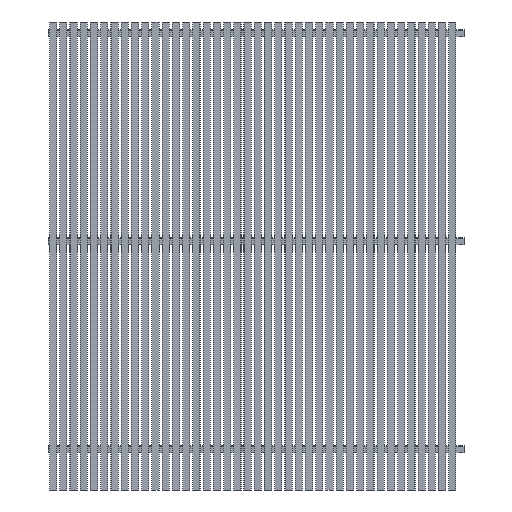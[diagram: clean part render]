
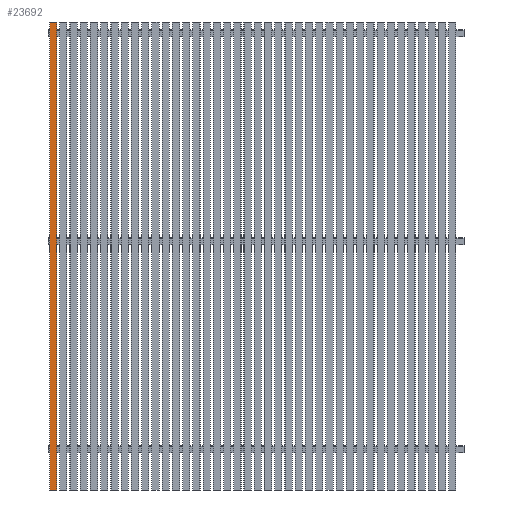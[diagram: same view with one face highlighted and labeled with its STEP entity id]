
A CAD part, front view. The second image highlights one B-rep face of the part: STEP entity #23692.
In plain terms, the highlighted planar face has unit normal (0, -1, 0).
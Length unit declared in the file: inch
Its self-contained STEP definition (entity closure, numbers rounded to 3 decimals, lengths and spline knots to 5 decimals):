
#525=PLANE('',#24916);
#1524=FACE_OUTER_BOUND('',#2686,.T.);
#2686=EDGE_LOOP('',(#16617,#16618,#16619,#16620));
#4192=LINE('',#32739,#7334);
#4193=LINE('',#32742,#7335);
#4194=LINE('',#32744,#7336);
#4195=LINE('',#32745,#7337);
#7334=VECTOR('',#26510,0.3937);
#7335=VECTOR('',#26513,0.3937);
#7336=VECTOR('',#26514,0.3937);
#7337=VECTOR('',#26515,0.3937);
#10801=VERTEX_POINT('',#32735);
#10802=VERTEX_POINT('',#32737);
#10803=VERTEX_POINT('',#32741);
#10804=VERTEX_POINT('',#32743);
#13130=EDGE_CURVE('',#10801,#10802,#4192,.T.);
#13131=EDGE_CURVE('',#10803,#10801,#4193,.T.);
#13132=EDGE_CURVE('',#10804,#10802,#4194,.T.);
#13133=EDGE_CURVE('',#10803,#10804,#4195,.T.);
#16617=ORIENTED_EDGE('',*,*,#13131,.T.);
#16618=ORIENTED_EDGE('',*,*,#13130,.T.);
#16619=ORIENTED_EDGE('',*,*,#13132,.F.);
#16620=ORIENTED_EDGE('',*,*,#13133,.F.);
#23692=ADVANCED_FACE('',(#1524),#525,.T.);
#24916=AXIS2_PLACEMENT_3D('',#32740,#26511,#26512);
#26510=DIRECTION('',(0.,0.,1.));
#26511=DIRECTION('center_axis',(0.,-1.,0.));
#26512=DIRECTION('ref_axis',(1.,0.,0.));
#26513=DIRECTION('',(1.,0.,0.));
#26514=DIRECTION('',(1.,0.,0.));
#26515=DIRECTION('',(0.,0.,1.));
#32735=CARTESIAN_POINT('',(1.65762,-0.00164,0.));
#32737=CARTESIAN_POINT('',(1.65762,-0.00164,108.));
#32739=CARTESIAN_POINT('',(1.65762,-0.00164,0.));
#32740=CARTESIAN_POINT('Origin',(0.02379,-0.00164,
0.));
#32741=CARTESIAN_POINT('',(0.02379,-0.00164,0.));
#32742=CARTESIAN_POINT('',(0.02379,-0.00164,0.));
#32743=CARTESIAN_POINT('',(0.02379,-0.00164,108.));
#32744=CARTESIAN_POINT('',(0.02379,-0.00164,108.));
#32745=CARTESIAN_POINT('',(0.02379,-0.00164,0.));
